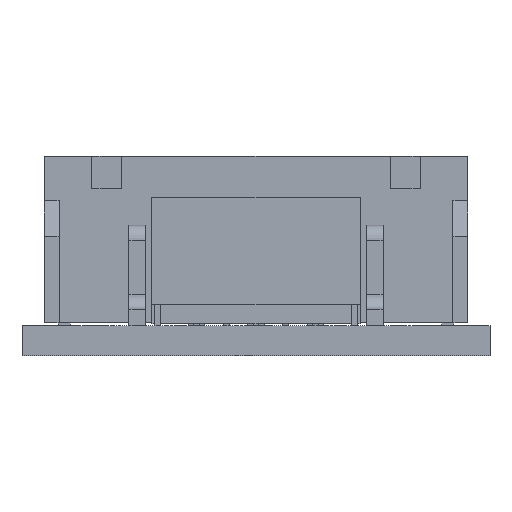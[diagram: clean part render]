
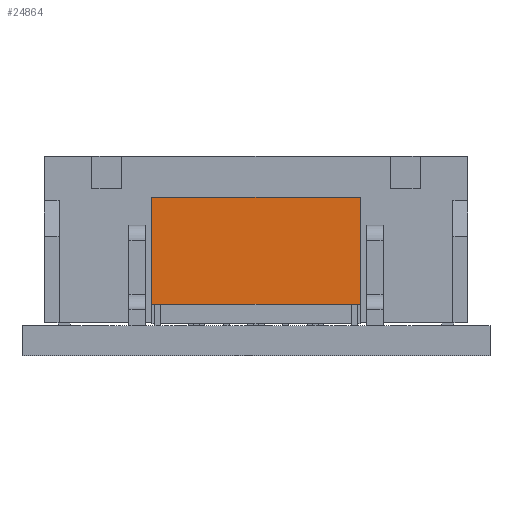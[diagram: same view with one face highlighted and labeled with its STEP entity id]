
A CAD part, front view. The second image highlights one B-rep face of the part: STEP entity #24864.
In plain terms, the highlighted planar face has unit normal (0, -1, 0).
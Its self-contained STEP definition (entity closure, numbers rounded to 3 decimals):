
#780 = EDGE_CURVE ( 'NONE', #29299, #15084, #7432, .T. ) ;
#799 = LINE ( 'NONE', #11809, #6711 ) ;
#3678 = LINE ( 'NONE', #18142, #16191 ) ;
#4559 = CARTESIAN_POINT ( 'NONE',  ( 4.374, 4.265, 1.736 ) ) ;
#4747 = PLANE ( 'NONE',  #26471 ) ;
#5106 = LINE ( 'NONE', #10708, #20400 ) ;
#6268 = EDGE_CURVE ( 'NONE', #29299, #19602, #3678, .T. ) ;
#6711 = VECTOR ( 'NONE', #19384, 1000. ) ;
#7432 = LINE ( 'NONE', #26945, #19670 ) ;
#7983 = ORIENTED_EDGE ( 'NONE', *, *, #780, .T. ) ;
#8941 = CARTESIAN_POINT ( 'NONE',  ( 11.374, 4.265, 1.736 ) ) ;
#10297 = VERTEX_POINT ( 'NONE', #8941 ) ;
#10576 = ORIENTED_EDGE ( 'NONE', *, *, #6268, .F. ) ;
#10708 = CARTESIAN_POINT ( 'NONE',  ( 4.374, 4.265, 1.736 ) ) ;
#10857 = DIRECTION ( 'NONE',  ( 0., 0., -1. ) ) ;
#11809 = CARTESIAN_POINT ( 'NONE',  ( 11.374, 4.265, 5.336 ) ) ;
#13942 = EDGE_CURVE ( 'NONE', #15084, #10297, #5106, .T. ) ;
#15084 = VERTEX_POINT ( 'NONE', #4559 ) ;
#15797 = CARTESIAN_POINT ( 'NONE',  ( 4.374, 4.265, 5.336 ) ) ;
#16191 = VECTOR ( 'NONE', #29143, 1000. ) ;
#18142 = CARTESIAN_POINT ( 'NONE',  ( 4.374, 4.265, 5.336 ) ) ;
#19384 = DIRECTION ( 'NONE',  ( 0., 0., -1. ) ) ;
#19554 = ORIENTED_EDGE ( 'NONE', *, *, #13942, .T. ) ;
#19602 = VERTEX_POINT ( 'NONE', #22443 ) ;
#19670 = VECTOR ( 'NONE', #10857, 1000. ) ;
#20400 = VECTOR ( 'NONE', #33210, 1000. ) ;
#20526 = CARTESIAN_POINT ( 'NONE',  ( 4.374, 4.265, 5.336 ) ) ;
#22443 = CARTESIAN_POINT ( 'NONE',  ( 11.374, 4.265, 5.336 ) ) ;
#23119 = EDGE_LOOP ( 'NONE', ( #7983, #19554, #27606, #10576 ) ) ;
#24733 = DIRECTION ( 'NONE',  ( -1., 0., 0. ) ) ;
#24864 = ADVANCED_FACE ( 'NONE', ( #34937 ), #4747, .F. ) ;
#26471 = AXIS2_PLACEMENT_3D ( 'NONE', #15797, #32367, #24733 ) ;
#26945 = CARTESIAN_POINT ( 'NONE',  ( 4.374, 4.265, 5.336 ) ) ;
#27606 = ORIENTED_EDGE ( 'NONE', *, *, #34017, .F. ) ;
#29143 = DIRECTION ( 'NONE',  ( 1., 0., 0. ) ) ;
#29299 = VERTEX_POINT ( 'NONE', #20526 ) ;
#32367 = DIRECTION ( 'NONE',  ( 0., 1., 0. ) ) ;
#33210 = DIRECTION ( 'NONE',  ( 1., 0., 0. ) ) ;
#34017 = EDGE_CURVE ( 'NONE', #19602, #10297, #799, .T. ) ;
#34937 = FACE_OUTER_BOUND ( 'NONE', #23119, .T. ) ;
